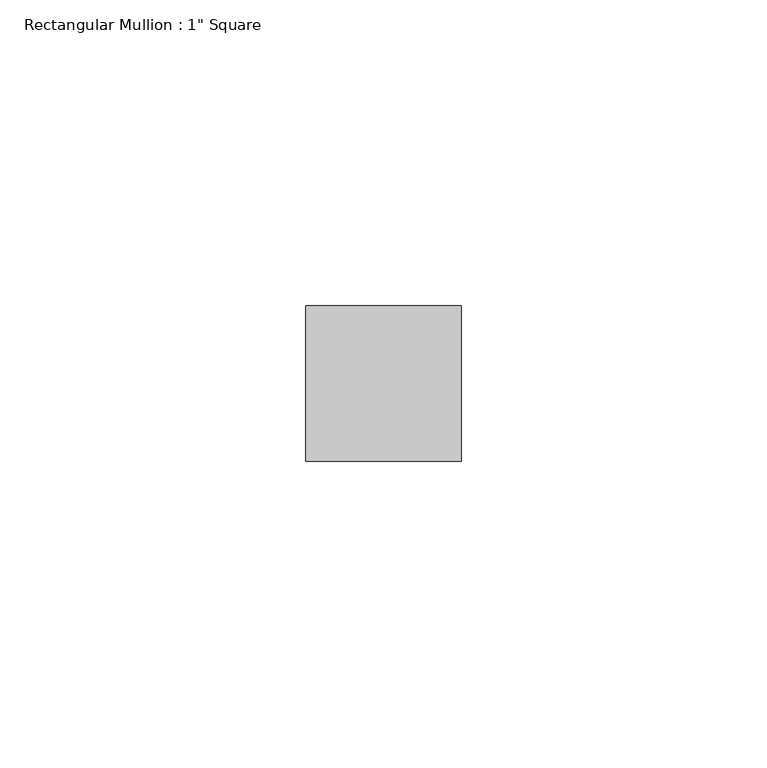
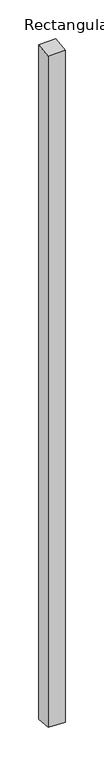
"""IFC4 building model written with IfcOpenShell, lengths in millimetres: member geometry."""

from ifc_helpers import new_model, si_unit, origin, place, context, project, spatial, faceted_brep, source, transform, mapped, element, save


def member_dd57c742(model_context):
    return source(origin(), model_context, "Body", "Brep", [
        faceted_brep([(-25.4, 12.7, 0.7578625), (0.0, 12.7, 1.4510365), (0.0, 12.7, -1068.2510365), (-25.4, 12.7, -1067.5578625), (-25.4, -12.7, -2.1442104), (-25.4, -12.7, -1064.6557896), (0.0, -12.7, -1.4510365), (0.0, -12.7, -1065.3489635)], [[[0, 1, 2, 3]], [[4, 0, 3, 5]], [[6, 4, 5, 7]], [[1, 6, 7, 2]], [[1, 0, 4, 6]], [[2, 7, 5, 3]]]),
    ])


if __name__ == "__main__":
    model = new_model("IFC4")
    model_context = context("Model", 3, world=origin())
    ifc_project = project(units=[si_unit("LENGTHUNIT", "METRE", prefix="MILLI")], contexts=[model_context])
    site = spatial("IfcSite", under=ifc_project)
    building = spatial("IfcBuilding", under=site)
    placement = place(None, origin())
    member_shape = member_dd57c742(model_context)
    element("IfcMember", 1, ObjectType="Rectangular Mullion : 1\" Square", at=placement, inside=building, context=model_context, shape_type="MappedRepresentation", body=[
        mapped(member_shape, transform((0.0, 0.0, 0.0), x_axis=(1.0, 0.0, 0.0), y_axis=(0.0, 1.0, 0.0), z_axis=(0.0, 0.0, 1.0))),
    ])
    save(model, "model.ifc")
